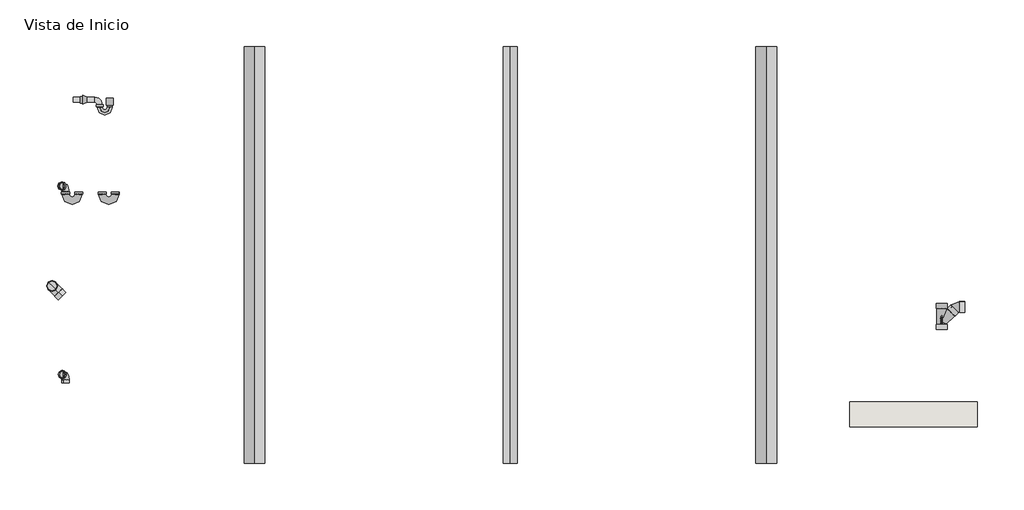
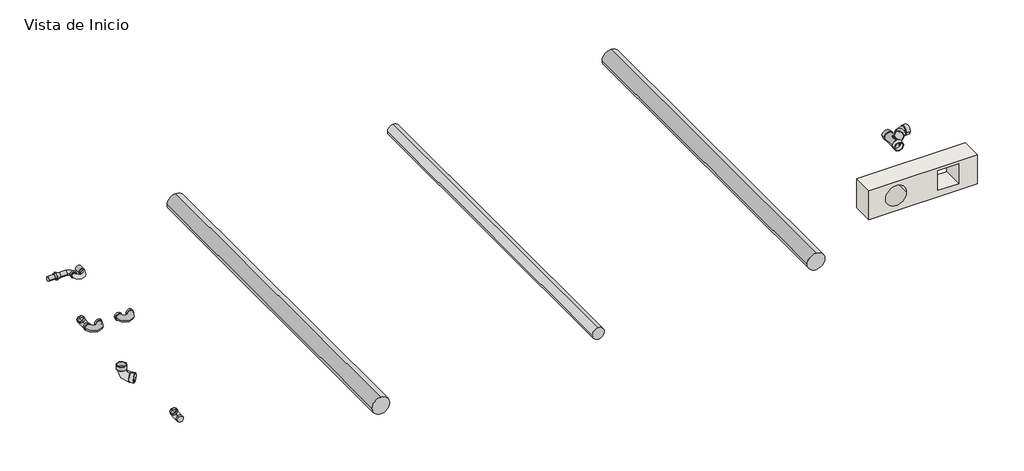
# One storey, incomplete: 9 pipe fittings, 3 pipe segments, 1 wall.
"""IFC4 building model written with IfcOpenShell, lengths in millimetres."""

from ifc_helpers import new_model, si_unit, point, frame, frame_2d, origin, place, context, project, spatial, polyline, circle_curve, trimmed, segment, composite_curve, outline, extrude, transform, mapped, element, save
from components import var_aa32e2ee, var_50cf3e29, var_73ad6585, var_3e23a3e5, var_9976362d, var_c5ad9c7a, var_dabff7ee, var_de0ad339

model = new_model("IFC4")

# Units and contexts
model_context = context("Model", 3, world=origin())
ifc_project = project(units=[si_unit("LENGTHUNIT", "METRE", prefix="MILLI")], contexts=[model_context])

# Site, building, storey
site = spatial("IfcSite", under=ifc_project)
building = spatial("IfcBuilding", under=site)
storey = spatial("IfcBuildingStorey", under=building, Name="Vista de Inicio", Elevation=0.0)

# Pipe fittings
placement = place(None, origin())
var_shape = var_aa32e2ee(model_context)
element("IfcPipeFitting", 1, ObjectType="PavcoWavin_UnionesDeTuberia_SanitariaSifon180°_Solo : Var.", at=placement, inside=storey, context=model_context, shape_type="MappedRepresentation", body=[
    mapped(var_shape, transform((-874.1954222, 2284.5997714, 0.0), x_axis=(1.0, 0.0, 0.0), y_axis=(0.0, 0.0, -1.0000000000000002), z_axis=(0.0, 1.0000000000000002, 0.0))),
])
var_2_shape = var_50cf3e29(model_context)
element("IfcPipeFitting", 2, ObjectType="PavcoWavin_UnionesDeTuberia_SanitariaZnoUsarAdaptador_Sifon : Var.", at=placement, inside=storey, context=model_context, shape_type="MappedRepresentation", body=[
    mapped(var_2_shape, transform((-1077.3157641, 3054.5411011, 0.0), x_axis=(1.0, 0.0, 0.0), y_axis=(0.0, 1.0000000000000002, 0.0), z_axis=(0.0, 0.0, 1.0000000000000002))),
])
var_3_shape = var_73ad6585(model_context)
element("IfcPipeFitting", 3, ObjectType="PavcoWavin_UnionesDeTuberia_SanitariaZnoUsarCodo_CxC : Var.", at=placement, inside=storey, context=model_context, shape_type="MappedRepresentation", body=[
    mapped(var_3_shape, transform((-1335.8669887, 1535.18194, 0.0), x_axis=(-0.49999999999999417, 0.4999999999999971, -0.7071067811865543), y_axis=(-0.5000000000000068, 0.5000000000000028, 0.7071067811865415), z_axis=(0.7071067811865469, 0.7071067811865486, 0.0))),
])
var_4_shape = var_3e23a3e5(model_context)
element("IfcPipeFitting", 4, ObjectType="PavcoWavin_UnionesDeTuberia_SanitariaSifon180_GirarCodo : Var.", at=placement, inside=storey, context=model_context, shape_type="MappedRepresentation", body=[
    mapped(var_4_shape, transform((-1226.7332745, 2284.5997714, 0.0), x_axis=(1.0000000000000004, 0.0, 0.0), y_axis=(0.0, 0.0, -1.0000000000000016), z_axis=(0.0, 1.000000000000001, 0.0))),
])
var_5_shape = var_9976362d(model_context)
element("IfcPipeFitting", 5, ObjectType="PavcoWavin_UnionesDeTuberia_SanitariaZnoUsarCodo_CxE : Var.", at=placement, inside=storey, context=model_context, shape_type="MappedRepresentation", body=[
    mapped(var_5_shape, transform((-1225.885354, 813.1093762, 0.0), x_axis=(0.0, 1.0000000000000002, 0.0), y_axis=(-0.5000000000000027, 0.0, 0.8660254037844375), z_axis=(0.8660254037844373, 0.0, 0.5000000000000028))),
])
element("IfcPipeFitting", 6, ObjectType="PavcoWavin_UnionesDeTuberia_SanitariaZnoUsarCodo_CxE : Var.", at=placement, inside=storey, context=model_context, shape_type="MappedRepresentation", body=[
    mapped(var_5_shape, transform((-1226.7332745, 2350.3897714, 0.0), x_axis=(0.0, 1.000000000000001, 0.0), y_axis=(-0.5000000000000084, 0.0, 0.8660254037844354), z_axis=(0.8660254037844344, 0.0, 0.500000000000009))),
])
var_6_shape = var_c5ad9c7a(model_context)
element("IfcPipeFitting", 7, ObjectType="PavcoWavin_UnionesDeTuberia_SanitariaSifonDesmontable : Var.", at=placement, inside=storey, context=model_context, shape_type="MappedRepresentation", body=[
    mapped(var_6_shape, transform((-1164.1407641, 3054.5411011, 0.0), x_axis=(1.0, 0.0, 0.0), y_axis=(0.0, 0.0, -1.0000000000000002), z_axis=(0.0, 1.0000000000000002, 0.0))),
])
var_7_shape = var_dabff7ee(model_context)
element("IfcPipeFitting", 8, ObjectType="PavcoWavin_UnionesDeTuberia_SanitariaYee : Var.", at=placement, inside=storey, context=model_context, shape_type="MappedRepresentation", body=[
    mapped(var_7_shape, transform((5910.3330522, 1243.0693011, 0.0), x_axis=(0.0, 1.0, 0.0), y_axis=(1.0, 0.0, 0.0), z_axis=(0.0, 0.0, -1.0))),
])
var_8_shape = var_de0ad339(model_context)
element("IfcPipeFitting", 9, ObjectType="PavcoWavin_UnionesDeTuberia_SanitariaZnoUsarCodo_CxE : Var.", at=placement, inside=storey, context=model_context, shape_type="MappedRepresentation", body=[
    mapped(var_8_shape, transform((6034.0060282, 1366.7422772, 0.0), x_axis=(0.7071067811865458, 0.7071067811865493, 0.0), y_axis=(0.7071067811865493, -0.7071067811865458, 0.0), z_axis=(0.0, 0.0, -1.0))),
])

# Pipe segments
element("IfcPipeSegment", 10, ObjectType="PavcoWavin_Tuberias_Sanitaria_de1½\"a10\"(6m)", at=placement, inside=storey, context=model_context, shape_type="SweptSolid", body=[
    extrude(outline(composite_curve([segment(trimmed(circle_curve(frame_2d((0.0, 312.7331522)), 84.1375), [point((0.0, 228.5956522))], [point((-84.1375, 312.7331522))], False, "CARTESIAN"), True, "CONTINUOUS"), segment(trimmed(circle_curve(frame_2d((0.0, 312.7331522)), 84.1375), [point((-84.1375, 312.7331522))], [point((0.0, 396.8706522))], False, "CARTESIAN"), True, "CONTINUOUS"), segment(trimmed(circle_curve(frame_2d((0.0, 312.7331522)), 84.1375), [point((0.0, 396.8706522))], [point((84.1375, 312.7331522))], False, "CARTESIAN"), True, "CONTINUOUS"), segment(trimmed(circle_curve(frame_2d((0.0, 312.7331522)), 84.1375), [point((84.1375, 312.7331522))], [point((0.0, 228.5956522))], False, "CARTESIAN"), True, "CONTINUOUS")], self_intersect=False)), frame((0.0, 88.6003383, 0.0), z_axis=(0.0, 1.0, 0.0), x_axis=(0.0, 0.0, 1.0)), (0.0, 0.0, 1.0), 3400.0),
])
element("IfcPipeSegment", 11, ObjectType="PavcoWavin_Tuberias_Ventilación_de1½\"a4\"(6m)", at=placement, inside=storey, context=model_context, shape_type="SweptSolid", body=[
    extrude(outline(composite_curve([segment(trimmed(circle_curve(frame_2d((0.0, 2397.6193676)), 57.15), [point((0.0, 2454.7693676))], [point((57.15, 2397.6193676))], False, "CARTESIAN"), True, "CONTINUOUS"), segment(trimmed(circle_curve(frame_2d((0.0, 2397.6193676)), 57.15), [point((57.15, 2397.6193676))], [point((0.0, 2340.4693676))], False, "CARTESIAN"), True, "CONTINUOUS"), segment(trimmed(circle_curve(frame_2d((0.0, 2397.6193676)), 57.15), [point((0.0, 2340.4693676))], [point((-57.15, 2397.6193676))], False, "CARTESIAN"), True, "CONTINUOUS"), segment(trimmed(circle_curve(frame_2d((0.0, 2397.6193676)), 57.15), [point((-57.15, 2397.6193676))], [point((0.0, 2454.7693676))], False, "CARTESIAN"), True, "CONTINUOUS")], self_intersect=False)), frame((0.0, 88.6003383, 0.0), z_axis=(0.0, 1.0, 0.0), x_axis=(0.0, 0.0, 1.0)), (0.0, 0.0, 1.0), 3400.0),
])
element("IfcPipeSegment", 12, ObjectType="PavcoWavin_Tuberias_Novatec_de2\"a6\"(6m)", at=placement, inside=storey, context=model_context, shape_type="SweptSolid", body=[
    extrude(outline(composite_curve([segment(trimmed(circle_curve(frame_2d((0.0, 4482.505583)), 84.1375), [point((0.0, 4398.368083))], [point((-84.1375, 4482.505583))], False, "CARTESIAN"), True, "CONTINUOUS"), segment(trimmed(circle_curve(frame_2d((0.0, 4482.505583)), 84.1375), [point((-84.1375, 4482.505583))], [point((0.0, 4566.643083))], False, "CARTESIAN"), True, "CONTINUOUS"), segment(trimmed(circle_curve(frame_2d((0.0, 4482.505583)), 84.1375), [point((0.0, 4566.643083))], [point((84.1375, 4482.505583))], False, "CARTESIAN"), True, "CONTINUOUS"), segment(trimmed(circle_curve(frame_2d((0.0, 4482.505583)), 84.1375), [point((84.1375, 4482.505583))], [point((0.0, 4398.368083))], False, "CARTESIAN"), True, "CONTINUOUS")], self_intersect=False)), frame((0.0, 88.6003383, 0.0), z_axis=(0.0, 1.0, 0.0), x_axis=(0.0, 0.0, 1.0)), (0.0, 0.0, 1.0), 3400.0),
])

# Wall
element("IfcWall", 13, ObjectType="Wall 1", at=placement, inside=storey, context=model_context, shape_type="SweptSolid", body=[
    extrude(outline(polyline([(0.0, 5162.6350358), (0.0, 6202.6350358), (296.5968372, 6202.6350358), (296.5968372, 5162.6350358), (0.0, 5162.6350358)]), holes=[composite_curve([segment(trimmed(circle_curve(frame_2d((154.4282969, 5422.6350358)), 100.0), [point((154.4282969, 5522.6350358))], [point((154.4282969, 5322.6350358))], True, "CARTESIAN"), True, "CONTINUOUS"), segment(trimmed(circle_curve(frame_2d((154.4282969, 5422.6350358)), 100.0), [point((154.4282969, 5322.6350358))], [point((154.4282969, 5522.6350358))], True, "CARTESIAN"), True, "CONTINUOUS")], self_intersect=False), polyline([(66.4896004, 6022.6350358), (66.4896004, 5822.6350358), (266.4896004, 5822.6350358), (266.4896004, 6022.6350358), (66.4896004, 6022.6350358)])]), frame((0.0, 389.2934333, 0.0), z_axis=(0.0, 1.0, 0.0), x_axis=(0.0, 0.0, 1.0)), (0.0, 0.0, 1.0), 200.0),
])

save(model, "model.ifc")
